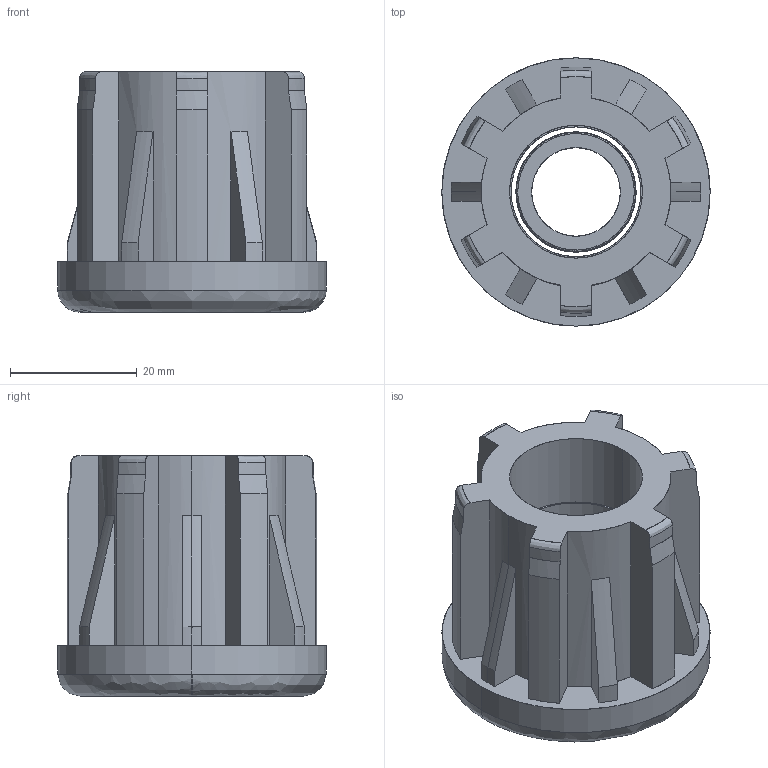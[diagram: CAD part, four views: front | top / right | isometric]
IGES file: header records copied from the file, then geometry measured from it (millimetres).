
Start section: SolidWorks IGES file using analytic representation for surfaces
Global section: file name: Y:\Tecnodin, S.L\PLAPP-Dirección - Documentos\General\Models CAD\Actiby\42006438214.IGS; native system: SolidWorks 2018; preprocessor: SolidWorks 2018; author: GerPro; date: 200225.181112; units: millimetre
Bounding box: 42.4 x 42.4 x 38 mm (x, y, z)
Surface area: 12571.5 mm2 (no closed solid volume)
Topology: 0 solids, 0 shells, 111 faces, 1136 edges, 1136 vertices
Faces by surface type: revolution 66, bspline 45
